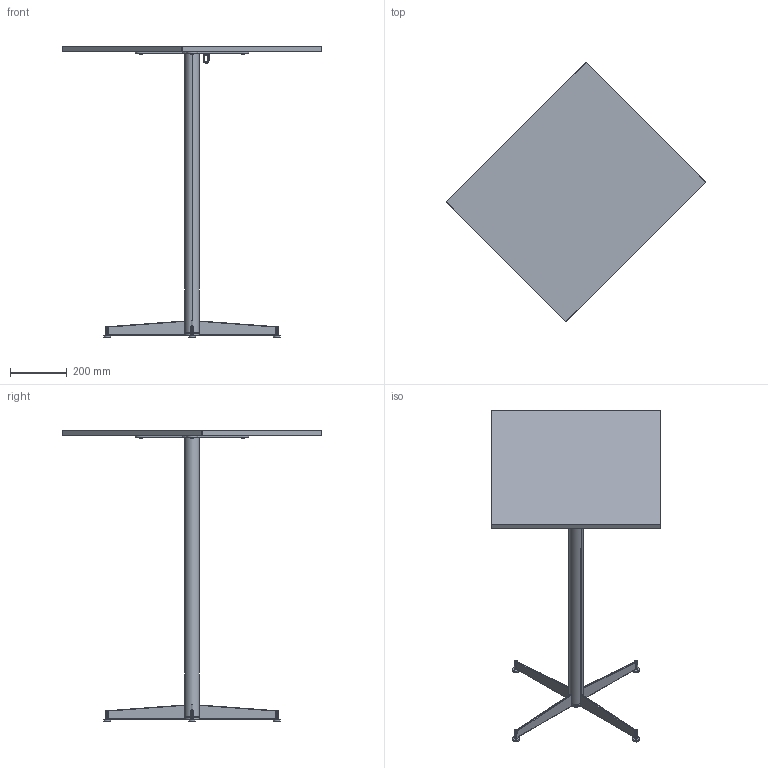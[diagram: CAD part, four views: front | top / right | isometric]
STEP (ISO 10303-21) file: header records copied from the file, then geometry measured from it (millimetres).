
FILE_DESCRIPTION ((), '1');
FILE_NAME ('C:\Users\fcl\Desktop\For at Xbne\Nook Bar Table 60x70.stp', '2025-10-03T15:23:59', ('Unknown'), ('Unknown'), 'HarmonyWare STEP v1.7.11', 'HarmonyWare Translators', '');
FILE_SCHEMA (('CONFIG_CONTROL_DESIGN'));
Length unit declared in the file: millimetre
Products named in the file (20): 085C002_R01 Nook Bar Table Base Assembly Steel: 085C205_R01 Nook Bar Table Leg Joint Steel: Boss-Extrude2; 085C002_R01 Nook Bar Table Base Assembly Steel: 085A206_R01 Nook Table Leg 6mm Steel test: Fillet1; 085C002_R01 Nook Bar Table Base Assembly Steel: 085A214_R01 Nook Table inner thread stud: Fillet1; 085C002_R01 Nook Bar Table Base Assembly Steel: 085A106_R01 Nook Dining Table X Plate Assembly Steel: 085A201_R01 Nook Dining Table X Plate Steel: Boss-Extrude2; 085C002_R01 Nook Bar Table Base Assembly Steel: 085A106_R01 Nook Dining Table X Plate Assembly Steel: 085A206_R01 Nook Dining Table Wire Attachment: Fillet1; 085C002_R01 Nook Bar Table Base Assembly Steel: SF257M627S-Ackurat: Imported1; 085C002_R01 Nook Bar Table Base Assembly Steel: 085A2016_R01 Nook Tabletop 60x70x2: Chamfer2; 085C002_R01 Nook Bar Table Base Assembly Steel: socket button head screw_iso_ISO 7380 - M6 x 12 - 12N: Hex
Bounding box: 917.85 x 917.8 x 1031 mm (x, y, z)
Volume: 9104635 mm3; surface area: 1384480.4 mm2
Topology: 20 solids, 20 shells, 600 faces, 1506 edges, 960 vertices
Faces by surface type: bspline 600
Entity records: 44170 total; most frequent: CARTESIAN_POINT 34014, ORIENTED_EDGE 2996, EDGE_CURVE 1498, VERTEX_POINT 960, B_SPLINE_CURVE_WITH_KNOTS 650, EDGE_LOOP 632, FACE_OUTER_BOUND 600, ADVANCED_FACE 600
